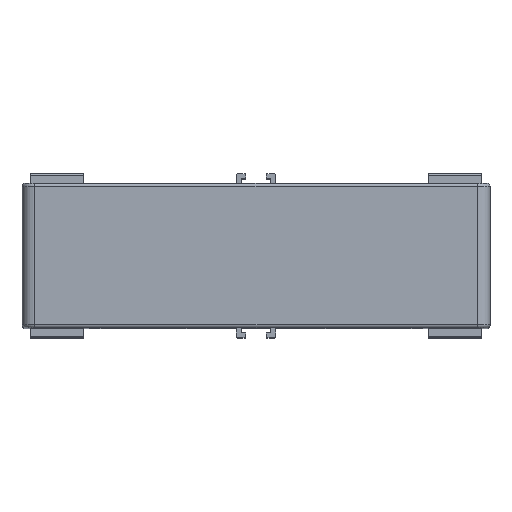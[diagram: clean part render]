
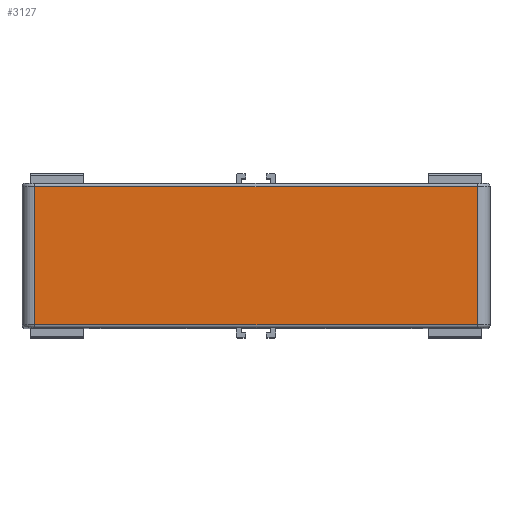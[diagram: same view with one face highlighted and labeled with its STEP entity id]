
A CAD part, top view. The second image highlights one B-rep face of the part: STEP entity #3127.
In plain terms, the highlighted planar face has unit normal (0, 0, 1).
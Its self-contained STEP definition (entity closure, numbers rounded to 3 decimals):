
#2800 = LINE ( 'NONE', #26613, #3396 ) ;
#3127 = ADVANCED_FACE ( 'NONE', ( #19032 ), #30133, .F. ) ;
#3396 = VECTOR ( 'NONE', #34898, 1000. ) ;
#4709 = CARTESIAN_POINT ( 'NONE',  ( 52.771, 186.014, 98.35 ) ) ;
#9478 = EDGE_CURVE ( 'NONE', #51304, #22556, #2800, .T. ) ;
#10840 = VERTEX_POINT ( 'NONE', #4709 ) ;
#11284 = AXIS2_PLACEMENT_3D ( 'NONE', #14717, #14377, #29967 ) ;
#12672 = LINE ( 'NONE', #31404, #34960 ) ;
#14377 = DIRECTION ( 'NONE',  ( 0., 0., -1. ) ) ;
#14717 = CARTESIAN_POINT ( 'NONE',  ( -88.229, 207.414, 98.35 ) ) ;
#16707 = EDGE_CURVE ( 'NONE', #10840, #48263, #12672, .T. ) ;
#16719 = ORIENTED_EDGE ( 'NONE', *, *, #30090, .T. ) ;
#19032 = FACE_OUTER_BOUND ( 'NONE', #47927, .T. ) ;
#21227 = DIRECTION ( 'NONE',  ( -1., 0., 0. ) ) ;
#21233 = CARTESIAN_POINT ( 'NONE',  ( 52.771, 186.014, 98.35 ) ) ;
#21475 = VECTOR ( 'NONE', #21227, 1000. ) ;
#22389 = EDGE_CURVE ( 'NONE', #22556, #10840, #49064, .T. ) ;
#22556 = VERTEX_POINT ( 'NONE', #42685 ) ;
#26140 = CARTESIAN_POINT ( 'NONE',  ( 52.771, 228.814, 98.35 ) ) ;
#26613 = CARTESIAN_POINT ( 'NONE',  ( -84.229, 207.414, 98.35 ) ) ;
#29967 = DIRECTION ( 'NONE',  ( 0., 1., 0. ) ) ;
#30090 = EDGE_CURVE ( 'NONE', #48263, #51304, #32018, .T. ) ;
#30133 = PLANE ( 'NONE',  #11284 ) ;
#31404 = CARTESIAN_POINT ( 'NONE',  ( 52.771, 207.414, 98.35 ) ) ;
#32018 = LINE ( 'NONE', #48872, #21475 ) ;
#33181 = DIRECTION ( 'NONE',  ( 1., 0., 0. ) ) ;
#34863 = VECTOR ( 'NONE', #33181, 1000. ) ;
#34898 = DIRECTION ( 'NONE',  ( 0., -1., 0. ) ) ;
#34960 = VECTOR ( 'NONE', #42834, 1000. ) ;
#35085 = ORIENTED_EDGE ( 'NONE', *, *, #22389, .T. ) ;
#35794 = ORIENTED_EDGE ( 'NONE', *, *, #9478, .T. ) ;
#37578 = CARTESIAN_POINT ( 'NONE',  ( -84.229, 228.814, 98.35 ) ) ;
#42685 = CARTESIAN_POINT ( 'NONE',  ( -84.229, 186.014, 98.35 ) ) ;
#42834 = DIRECTION ( 'NONE',  ( 0., 1., 0. ) ) ;
#43333 = ORIENTED_EDGE ( 'NONE', *, *, #16707, .T. ) ;
#47927 = EDGE_LOOP ( 'NONE', ( #35794, #35085, #43333, #16719 ) ) ;
#48263 = VERTEX_POINT ( 'NONE', #26140 ) ;
#48872 = CARTESIAN_POINT ( 'NONE',  ( -84.229, 228.814, 98.35 ) ) ;
#49064 = LINE ( 'NONE', #21233, #34863 ) ;
#51304 = VERTEX_POINT ( 'NONE', #37578 ) ;
